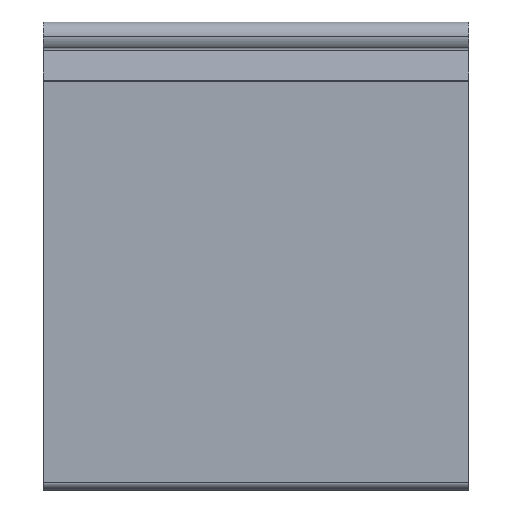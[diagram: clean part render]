
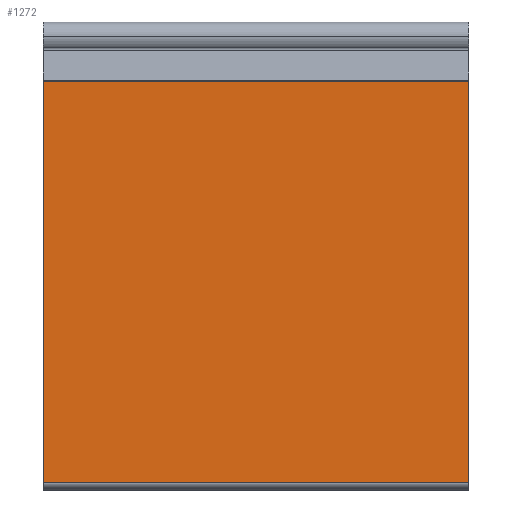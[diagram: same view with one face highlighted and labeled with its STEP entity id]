
A CAD part, top view. The second image highlights one B-rep face of the part: STEP entity #1272.
In plain terms, the highlighted planar face has unit normal (0, 0, 1).
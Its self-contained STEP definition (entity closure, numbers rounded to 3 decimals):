
#20 = CARTESIAN_POINT ( 'NONE',  ( 58., -12.164, 4.05 ) ) ;
#21 = DIRECTION ( 'NONE',  ( 0., 0., -1. ) ) ;
#22 = DIRECTION ( 'NONE',  ( 0., 1., 0. ) ) ;
#68 = EDGE_CURVE ( 'NONE', #1292, #1072, #490, .T. ) ;
#99 = VERTEX_POINT ( 'NONE', #840 ) ;
#212 = EDGE_CURVE ( 'NONE', #99, #599, #1027, .T. ) ;
#236 = FACE_OUTER_BOUND ( 'NONE', #1257, .T. ) ;
#268 = EDGE_CURVE ( 'NONE', #1292, #99, #1050, .T. ) ;
#269 = EDGE_CURVE ( 'NONE', #1072, #599, #1052, .T. ) ;
#287 = AXIS2_PLACEMENT_3D ( 'NONE', #20, #21, #22 ) ;
#490 = LINE ( 'NONE', #878, #499 ) ;
#499 = VECTOR ( 'NONE', #880, 1000. ) ;
#504 = ORIENTED_EDGE ( 'NONE', *, *, #212, .T. ) ;
#505 = ORIENTED_EDGE ( 'NONE', *, *, #269, .F. ) ;
#506 = ORIENTED_EDGE ( 'NONE', *, *, #68, .F. ) ;
#507 = ORIENTED_EDGE ( 'NONE', *, *, #268, .T. ) ;
#599 = VERTEX_POINT ( 'NONE', #678 ) ;
#678 = CARTESIAN_POINT ( 'NONE',  ( -58., -121.663, 4.05 ) ) ;
#798 = CARTESIAN_POINT ( 'NONE',  ( 58., -12.164, 4.05 ) ) ;
#799 = DIRECTION ( 'NONE',  ( -1., 0., 0. ) ) ;
#800 = CARTESIAN_POINT ( 'NONE',  ( 58., -121.663, 4.05 ) ) ;
#801 = DIRECTION ( 'NONE',  ( -1., 0., 0. ) ) ;
#840 = CARTESIAN_POINT ( 'NONE',  ( -58., -12.164, 4.05 ) ) ;
#878 = CARTESIAN_POINT ( 'NONE',  ( 58., -12.164, 4.05 ) ) ;
#880 = DIRECTION ( 'NONE',  ( 0., -1., 0. ) ) ;
#1027 = LINE ( 'NONE', #1129, #1028 ) ;
#1028 = VECTOR ( 'NONE', #1138, 1000. ) ;
#1050 = LINE ( 'NONE', #798, #1051 ) ;
#1051 = VECTOR ( 'NONE', #799, 1000. ) ;
#1052 = LINE ( 'NONE', #800, #1053 ) ;
#1053 = VECTOR ( 'NONE', #801, 1000. ) ;
#1072 = VERTEX_POINT ( 'NONE', #1196 ) ;
#1109 = CARTESIAN_POINT ( 'NONE',  ( 58., -12.164, 4.05 ) ) ;
#1129 = CARTESIAN_POINT ( 'NONE',  ( -58., -12.164, 4.05 ) ) ;
#1138 = DIRECTION ( 'NONE',  ( 0., -1., 0. ) ) ;
#1196 = CARTESIAN_POINT ( 'NONE',  ( 58., -121.663, 4.05 ) ) ;
#1199 = PLANE ( 'NONE',  #287 ) ;
#1257 = EDGE_LOOP ( 'NONE', ( #504, #505, #506, #507 ) ) ;
#1272 = ADVANCED_FACE ( 'NONE', ( #236 ), #1199, .F. ) ;
#1292 = VERTEX_POINT ( 'NONE', #1109 ) ;
